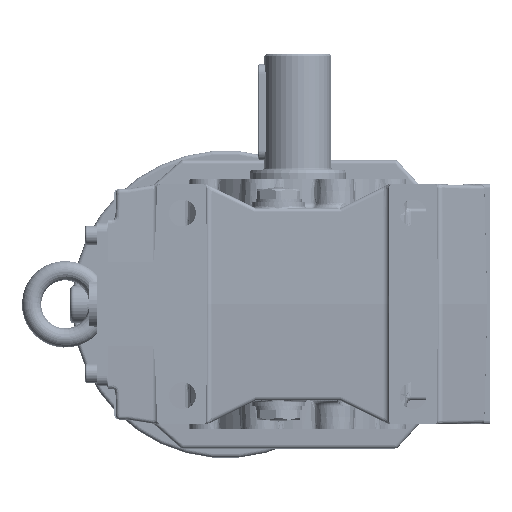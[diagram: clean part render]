
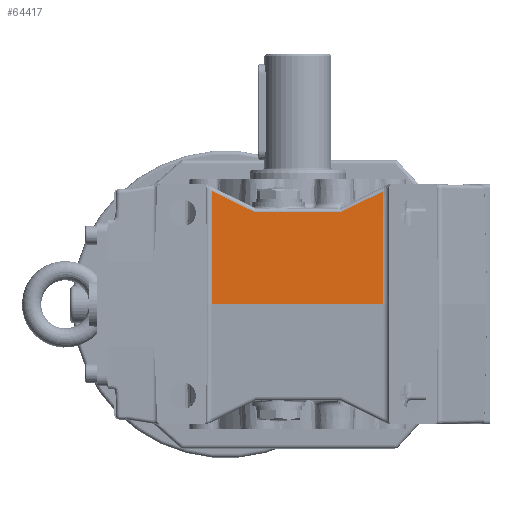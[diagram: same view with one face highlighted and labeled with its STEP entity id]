
A CAD part, left-side view. The second image highlights one B-rep face of the part: STEP entity #64417.
In plain terms, the highlighted planar face has unit normal (-1, 0, 0.026).
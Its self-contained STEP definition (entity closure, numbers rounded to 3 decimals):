
#21649=CARTESIAN_POINT('',(-88.309,-44.5,0.));
#21650=VERTEX_POINT('',#21649);
#21718=CARTESIAN_POINT('',(-86.768,-44.5,58.854));
#21719=VERTEX_POINT('',#21718);
#21727=CARTESIAN_POINT('',(-86.768,-44.5,58.854));
#21728=DIRECTION('',(-0.026,0.,-1.));
#21729=VECTOR('',#21728,58.875);
#21730=LINE('',#21727,#21729);
#21731=EDGE_CURVE('',#21719,#21650,#21730,.T.);
#22154=CARTESIAN_POINT('',(-88.309,44.5,0.));
#22155=VERTEX_POINT('',#22154);
#22163=CARTESIAN_POINT('',(-86.768,44.5,58.854));
#22164=VERTEX_POINT('',#22163);
#22165=CARTESIAN_POINT('',(-88.309,44.5,0.));
#22166=DIRECTION('',(0.026,0.0,1.));
#22167=VECTOR('',#22166,58.875);
#22168=LINE('',#22165,#22167);
#22169=EDGE_CURVE('',#22155,#22164,#22168,.T.);
#59041=CARTESIAN_POINT('',(-87.051,22.464,48.052));
#59042=VERTEX_POINT('',#59041);
#59050=CARTESIAN_POINT('',(-87.051,-22.464,48.052));
#59051=VERTEX_POINT('',#59050);
#59052=CARTESIAN_POINT('',(-87.051,22.464,48.052));
#59053=DIRECTION('',(0.0,-1.0,0.0));
#59054=VECTOR('',#59053,44.928);
#59055=LINE('',#59052,#59054);
#59056=EDGE_CURVE('',#59042,#59051,#59055,.T.);
#64186=CARTESIAN_POINT('',(-87.051,-22.464,48.052));
#64187=DIRECTION('',(0.012,-0.898,0.44));
#64188=VECTOR('',#64187,24.543);
#64189=LINE('',#64186,#64188);
#64190=EDGE_CURVE('',#59051,#21719,#64189,.T.);
#64207=CARTESIAN_POINT('',(-86.768,44.5,58.854));
#64208=DIRECTION('',(-0.012,-0.898,-0.44));
#64209=VECTOR('',#64208,24.543);
#64210=LINE('',#64207,#64209);
#64211=EDGE_CURVE('',#22164,#59042,#64210,.T.);
#64399=CARTESIAN_POINT('',(-88.309,-97.,0.017));
#64400=DIRECTION('',(-1.,0.,0.026));
#64401=DIRECTION('',(0.026,0.,1.));
#64402=AXIS2_PLACEMENT_3D('',#64399,#64400,#64401);
#64403=PLANE('',#64402);
#64404=ORIENTED_EDGE('',*,*,#64211,.F.);
#64405=ORIENTED_EDGE('',*,*,#22169,.F.);
#64406=CARTESIAN_POINT('',(-88.309,-44.5,0.));
#64407=DIRECTION('',(0.0,1.0,0.0));
#64408=VECTOR('',#64407,89.);
#64409=LINE('',#64406,#64408);
#64410=EDGE_CURVE('',#22155,#21650,#64409,.F.);
#64411=ORIENTED_EDGE('',*,*,#64410,.T.);
#64412=ORIENTED_EDGE('',*,*,#21731,.F.);
#64413=ORIENTED_EDGE('',*,*,#64190,.F.);
#64414=ORIENTED_EDGE('',*,*,#59056,.F.);
#64415=EDGE_LOOP('',(#64404,#64405,#64411,#64412,#64413,#64414));
#64416=FACE_OUTER_BOUND('',#64415,.T.);
#64417=ADVANCED_FACE('',(#64416),#64403,.T.);
